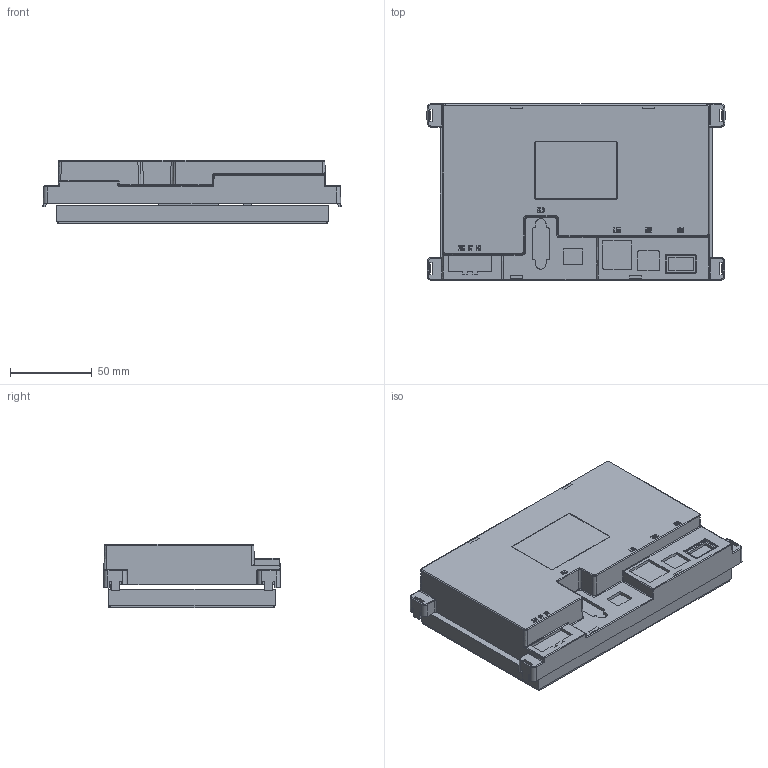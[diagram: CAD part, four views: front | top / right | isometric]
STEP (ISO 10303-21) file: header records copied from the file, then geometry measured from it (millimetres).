
FILE_DESCRIPTION(/* description */ (''),/* implementation_level */ '2;1');
FILE_NAME(/* name */ 'TGM765B-ET',/* time_stamp */ '2023-03-09T19:49:08+08:00',/* author */ (''),/* organization */ (''),/* preprocessor_version */ 'ST-DEVELOPER v16.5',/* originating_system */ '',/* authorisation */ '');
FILE_SCHEMA (('AUTOMOTIVE_DESIGN'));
Length unit declared in the file: millimetre
Products named in the file (1): Document
Bounding box: 182.85 x 108.5 x 39 mm (x, y, z)
Volume: 680852 mm3; surface area: 164435.4 mm2
Topology: 4 solids, 4 shells, 690 faces, 1831 edges, 1177 vertices
Faces by surface type: plane 383, bspline 307
Entity records: 24222 total; most frequent: CARTESIAN_POINT 12696, ORIENTED_EDGE 3634, EDGE_CURVE 1817, B_SPLINE_CURVE_WITH_KNOTS 1419, VERTEX_POINT 1176, EDGE_LOOP 739, ADVANCED_FACE 690, FACE_OUTER_BOUND 690
